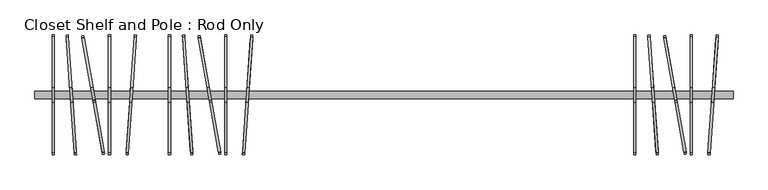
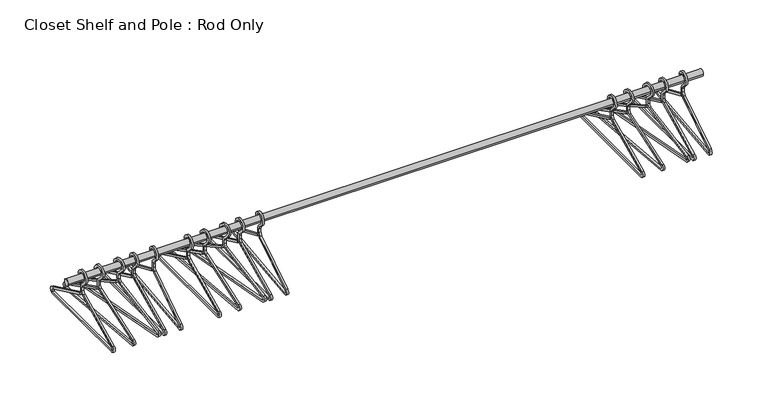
"""IFC4 building model written with IfcOpenShell, lengths in millimetres: furniture geometry, Closet Shelf and Pole : Rod Only."""

from ifc_helpers import new_model, si_unit, point, frame, frame_2d, origin, place, context, project, spatial, polyline, circle_curve, trimmed, segment, composite_curve, outline, extrude, source, transform, mapped, element, save


def closet_shelf_and_pole_rod_only_98f2f419(model_context):
    return source(origin(), model_context, "Body", "SweptSolid", [
        extrude(outline(composite_curve([segment(polyline([(0.0, -7.62), (0.0, 0.0), (209.55, 0.0)]), True, "CONTINUOUS"), segment(trimmed(circle_curve(frame_2d((209.55, -12.7)), 12.7), [point((209.55, 0.0))], [point((215.0168758, -24.1631265))], False, "CARTESIAN"), True, "CONTINUOUS"), segment(polyline([(215.0168758, -24.1631265), (-140.3400452, -193.6362767)]), True, "CONTINUOUS"), segment(trimmed(circle_curve(frame_2d((-145.806921, -182.1731502)), 12.7), [point((-140.3400452, -193.6362767))], [point((-155.6758169, -174.179722))], False, "CARTESIAN"), True, "CONTINUOUS"), segment(polyline([(-155.6758169, -174.179722), (-19.6406824, -6.2271797)]), True, "CONTINUOUS"), segment(trimmed(circle_curve(frame_2d((-29.5095783, 1.7662485)), 12.7), [point((-19.6406824, -6.2271797))], [point((-18.0464519, 7.2331242))], True, "CARTESIAN"), True, "CONTINUOUS"), segment(polyline([(-18.0464519, 7.2331242), (-24.2041701, 20.1448321)]), True, "CONTINUOUS"), segment(trimmed(circle_curve(frame_2d((-35.6672966, 14.6779563)), 12.7), [point((-24.2041701, 20.1448321))], [point((-31.4273071, 26.6492757))], True, "CARTESIAN"), True, "CONTINUOUS"), segment(polyline([(-31.4273071, 26.6492757), (-50.4112631, 33.3729936)]), True, "CONTINUOUS"), segment(trimmed(circle_curve(frame_2d((-41.9312841, 57.3156324)), 25.4), [point((-50.4112631, 33.3729936))], [point((-19.005031, 68.2493841))], False, "CARTESIAN"), True, "CONTINUOUS"), segment(polyline([(-19.005031, 68.2493841), (-25.882907, 64.9692586)]), True, "CONTINUOUS"), segment(trimmed(circle_curve(frame_2d((-41.9312841, 57.3156324)), 17.78), [point((-25.882907, 64.9692586))], [point((-47.8672693, 40.5557852))], True, "CARTESIAN"), True, "CONTINUOUS"), segment(polyline([(-47.8672693, 40.5557852), (-28.8833134, 33.8320674)]), True, "CONTINUOUS"), segment(trimmed(circle_curve(frame_2d((-35.6672966, 14.6779563)), 20.32), [point((-28.8833134, 33.8320674))], [point((-17.3262942, 23.4249576))], False, "CARTESIAN"), True, "CONTINUOUS"), segment(polyline([(-17.3262942, 23.4249576), (-11.1685759, 10.5132497)]), True, "CONTINUOUS"), segment(trimmed(circle_curve(frame_2d((-29.5095783, 1.7662485)), 20.32), [point((-11.1685759, 10.5132497))], [point((-13.7193448, -11.0232366))], False, "CARTESIAN"), True, "CONTINUOUS"), segment(polyline([(-13.7193448, -11.0232366), (-149.7544794, -178.9757789)]), True, "CONTINUOUS"), segment(trimmed(circle_curve(frame_2d((-145.806921, -182.1731502)), 5.08), [point((-149.7544794, -178.9757789))], [point((-143.6201707, -186.7584008))], True, "CARTESIAN"), True, "CONTINUOUS"), segment(polyline([(-143.6201707, -186.7584008), (211.7367503, -17.2852506)]), True, "CONTINUOUS"), segment(trimmed(circle_curve(frame_2d((209.55, -12.7)), 5.08), [point((211.7367503, -17.2852506))], [point((209.55, -7.62))], True, "CARTESIAN"), True, "CONTINUOUS"), segment(polyline([(209.55, -7.62), (0.0, -7.62)]), True, "CONTINUOUS")], self_intersect=False)), frame((603.5600176, -241.686473, 1314.5165774), z_axis=(0.9848077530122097, 0.1736481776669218, 0.0), x_axis=(-0.15673630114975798, 0.8888957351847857, -0.4304626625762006)), (0.0, 0.0, 1.0), 7.62),
        extrude(outline(composite_curve([segment(polyline([(0.0, -7.62), (0.0, 0.0), (209.55, 0.0)]), True, "CONTINUOUS"), segment(trimmed(circle_curve(frame_2d((209.55, 5.08)), 5.08), [point((209.55, 0.0))], [point((211.7367503, 9.6652506))], True, "CARTESIAN"), True, "CONTINUOUS"), segment(polyline([(211.7367503, 9.6652506), (-143.6201708, 179.1384008)]), True, "CONTINUOUS"), segment(trimmed(circle_curve(frame_2d((-145.8069211, 174.5531502)), 5.08), [point((-143.6201708, 179.1384008))], [point((-149.7544794, 171.355779))], True, "CARTESIAN"), True, "CONTINUOUS"), segment(polyline([(-149.7544794, 171.355779), (-13.7193449, 3.4032366)]), True, "CONTINUOUS"), segment(trimmed(circle_curve(frame_2d((-29.5095783, -9.3862485)), 20.32), [point((-13.7193449, 3.4032366))], [point((-11.1685759, -18.1332498))], False, "CARTESIAN"), True, "CONTINUOUS"), segment(polyline([(-11.1685759, -18.1332498), (-17.3262942, -31.0449576)]), True, "CONTINUOUS"), segment(trimmed(circle_curve(frame_2d((-35.6672966, -22.2979563)), 20.32), [point((-17.3262942, -31.0449576))], [point((-28.8833133, -41.4520675))], False, "CARTESIAN"), True, "CONTINUOUS"), segment(polyline([(-28.8833133, -41.4520675), (-47.8672693, -48.1757852)]), True, "CONTINUOUS"), segment(trimmed(circle_curve(frame_2d((-41.931284, -64.9356325)), 17.78), [point((-47.8672693, -48.1757852))], [point((-25.882907, -72.5892586))], True, "CARTESIAN"), True, "CONTINUOUS"), segment(polyline([(-25.882907, -72.5892586), (-19.0050311, -75.8693841)]), True, "CONTINUOUS"), segment(trimmed(circle_curve(frame_2d((-41.931284, -64.9356325)), 25.4), [point((-19.0050311, -75.8693841))], [point((-50.4112631, -40.9929936))], False, "CARTESIAN"), True, "CONTINUOUS"), segment(polyline([(-50.4112631, -40.9929936), (-31.427307, -34.2692758)]), True, "CONTINUOUS"), segment(trimmed(circle_curve(frame_2d((-35.6672966, -22.2979563)), 12.7), [point((-31.427307, -34.2692758))], [point((-24.2041701, -27.7648321))], True, "CARTESIAN"), True, "CONTINUOUS"), segment(polyline([(-24.2041701, -27.7648321), (-18.0464518, -14.8531243)]), True, "CONTINUOUS"), segment(trimmed(circle_curve(frame_2d((-29.5095783, -9.3862485)), 12.7), [point((-18.0464518, -14.8531243))], [point((-19.6406824, -1.3928203))], True, "CARTESIAN"), True, "CONTINUOUS"), segment(polyline([(-19.6406824, -1.3928203), (-155.6758169, 166.559722)]), True, "CONTINUOUS"), segment(trimmed(circle_curve(frame_2d((-145.8069211, 174.5531502)), 12.7), [point((-155.6758169, 166.559722))], [point((-140.3400453, 186.0162767))], False, "CARTESIAN"), True, "CONTINUOUS"), segment(polyline([(-140.3400453, 186.0162767), (215.0168758, 16.5431265)]), True, "CONTINUOUS"), segment(trimmed(circle_curve(frame_2d((209.55, 5.08)), 12.7), [point((215.0168758, 16.5431265))], [point((209.55, -7.6200001))], False, "CARTESIAN"), True, "CONTINUOUS"), segment(polyline([(209.55, -7.6200001), (0.0, -7.62)]), True, "CONTINUOUS")], self_intersect=False)), frame((747.4409707, -244.394713, 1307.6387015), z_axis=(-0.9975640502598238, 0.0697564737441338, 0.0), x_axis=(0.06296277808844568, 0.900409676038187, -0.4304626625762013)), (0.0, 0.0, 1.0), 7.62),
        extrude(outline(composite_curve([segment(polyline([(0.0, -7.62), (0.0, 0.0), (209.55, 0.0)]), True, "CONTINUOUS"), segment(trimmed(circle_curve(frame_2d((209.55, -12.7)), 12.7), [point((209.55, 0.0))], [point((215.0168758, -24.1631265))], False, "CARTESIAN"), True, "CONTINUOUS"), segment(polyline([(215.0168758, -24.1631265), (-140.3400453, -193.6362767)]), True, "CONTINUOUS"), segment(trimmed(circle_curve(frame_2d((-145.8069211, -182.1731502)), 12.7), [point((-140.3400453, -193.6362767))], [point((-155.6758169, -174.179722))], False, "CARTESIAN"), True, "CONTINUOUS"), segment(polyline([(-155.6758169, -174.179722), (-19.6406824, -6.2271797)]), True, "CONTINUOUS"), segment(trimmed(circle_curve(frame_2d((-29.5095783, 1.7662484)), 12.7), [point((-19.6406824, -6.2271797))], [point((-18.0464519, 7.2331242))], True, "CARTESIAN"), True, "CONTINUOUS"), segment(polyline([(-18.0464519, 7.2331242), (-24.2041701, 20.1448321)]), True, "CONTINUOUS"), segment(trimmed(circle_curve(frame_2d((-35.6672966, 14.6779563)), 12.7), [point((-24.2041701, 20.1448321))], [point((-31.427307, 26.6492757))], True, "CARTESIAN"), True, "CONTINUOUS"), segment(polyline([(-31.427307, 26.6492757), (-50.4112631, 33.3729936)]), True, "CONTINUOUS"), segment(trimmed(circle_curve(frame_2d((-41.9312841, 57.3156324)), 25.4), [point((-50.4112631, 33.3729936))], [point((-19.0050311, 68.2493841))], False, "CARTESIAN"), True, "CONTINUOUS"), segment(polyline([(-19.0050311, 68.2493841), (-25.882907, 64.9692586)]), True, "CONTINUOUS"), segment(trimmed(circle_curve(frame_2d((-41.9312841, 57.3156324)), 17.78), [point((-25.882907, 64.9692586))], [point((-47.8672693, 40.5557852))], True, "CARTESIAN"), True, "CONTINUOUS"), segment(polyline([(-47.8672693, 40.5557852), (-28.8833133, 33.8320674)]), True, "CONTINUOUS"), segment(trimmed(circle_curve(frame_2d((-35.6672966, 14.6779563)), 20.32), [point((-28.8833133, 33.8320674))], [point((-17.3262942, 23.4249576))], False, "CARTESIAN"), True, "CONTINUOUS"), segment(polyline([(-17.3262942, 23.4249576), (-11.1685759, 10.5132497)]), True, "CONTINUOUS"), segment(trimmed(circle_curve(frame_2d((-29.5095783, 1.7662484)), 20.32), [point((-11.1685759, 10.5132497))], [point((-13.7193449, -11.0232367))], False, "CARTESIAN"), True, "CONTINUOUS"), segment(polyline([(-13.7193449, -11.0232367), (-149.7544795, -178.975779)]), True, "CONTINUOUS"), segment(trimmed(circle_curve(frame_2d((-145.8069211, -182.1731502)), 5.08), [point((-149.7544795, -178.975779))], [point((-143.6201708, -186.7584008))], True, "CARTESIAN"), True, "CONTINUOUS"), segment(polyline([(-143.6201708, -186.7584008), (211.7367503, -17.2852506)]), True, "CONTINUOUS"), segment(trimmed(circle_curve(frame_2d((209.55, -12.7)), 5.08), [point((211.7367503, -17.2852506))], [point((209.5499999, -7.62))], True, "CARTESIAN"), True, "CONTINUOUS"), segment(polyline([(209.5499999, -7.62), (0.0, -7.62)]), True, "CONTINUOUS")], self_intersect=False)), frame((528.6802193, -241.1225777, 1314.5165774), z_axis=(0.997564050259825, 0.06975647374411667, 0.0), x_axis=(-0.06296277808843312, 0.900409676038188, -0.4304626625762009)), (0.0, 0.0, 1.0), 7.62),
        extrude(outline(composite_curve([segment(polyline([(-244.1048367, 1307.6387015), (-240.8247112, 1314.5165774), (-51.6831242, 1224.3131265)]), True, "CONTINUOUS"), segment(trimmed(circle_curve(frame_2d((-57.15, 1212.85)), 12.7), [point((-51.6831242, 1224.3131265))], [point((-57.15, 1200.15))], False, "CARTESIAN"), True, "CONTINUOUS"), segment(polyline([(-57.15, 1200.15), (-450.85, 1200.15)]), True, "CONTINUOUS"), segment(trimmed(circle_curve(frame_2d((-450.85, 1212.85)), 12.7), [point((-450.85, 1200.15))], [point((-456.3168758, 1224.3131265))], False, "CARTESIAN"), True, "CONTINUOUS"), segment(polyline([(-456.3168758, 1224.3131265), (-261.2331242, 1317.3504532)]), True, "CONTINUOUS"), segment(trimmed(circle_curve(frame_2d((-266.7, 1328.8135797)), 12.7), [point((-261.2331242, 1317.3504532))], [point((-254.0, 1328.8135797))], True, "CARTESIAN"), True, "CONTINUOUS"), segment(polyline([(-254.0, 1328.8135797), (-254.0, 1343.1184633)]), True, "CONTINUOUS"), segment(trimmed(circle_curve(frame_2d((-266.7, 1343.1184633)), 12.7), [point((-254.0, 1343.1184633))], [point((-257.7197439, 1352.0987194))], True, "CARTESIAN"), True, "CONTINUOUS"), segment(polyline([(-257.7197439, 1352.0987194), (-271.9605122, 1366.3394878)]), True, "CONTINUOUS"), segment(trimmed(circle_curve(frame_2d((-254.0, 1384.3)), 25.4), [point((-271.9605122, 1366.3394878))], [point((-228.6, 1384.3))], False, "CARTESIAN"), True, "CONTINUOUS"), segment(polyline([(-228.6, 1384.3), (-236.22, 1384.3)]), True, "CONTINUOUS"), segment(trimmed(circle_curve(frame_2d((-254.0, 1384.3)), 17.78), [point((-236.22, 1384.3))], [point((-266.5723586, 1371.7276414))], True, "CARTESIAN"), True, "CONTINUOUS"), segment(polyline([(-266.5723586, 1371.7276414), (-252.3315902, 1357.4868731)]), True, "CONTINUOUS"), segment(trimmed(circle_curve(frame_2d((-266.7, 1343.1184633)), 20.32), [point((-252.3315902, 1357.4868731))], [point((-246.38, 1343.1184633))], False, "CARTESIAN"), True, "CONTINUOUS"), segment(polyline([(-246.38, 1343.1184633), (-246.38, 1328.8135797)]), True, "CONTINUOUS"), segment(trimmed(circle_curve(frame_2d((-266.7, 1328.8135797)), 20.32), [point((-246.38, 1328.8135797))], [point((-257.9529987, 1310.4725773))], False, "CARTESIAN"), True, "CONTINUOUS"), segment(polyline([(-257.9529987, 1310.4725773), (-453.0367503, 1217.4352506)]), True, "CONTINUOUS"), segment(trimmed(circle_curve(frame_2d((-450.85, 1212.85)), 5.08), [point((-453.0367503, 1217.4352506))], [point((-450.85, 1207.77))], True, "CARTESIAN"), True, "CONTINUOUS"), segment(polyline([(-450.85, 1207.77), (-57.15, 1207.77)]), True, "CONTINUOUS"), segment(trimmed(circle_curve(frame_2d((-57.15, 1212.85)), 5.08), [point((-57.15, 1207.77))], [point((-54.9632497, 1217.4352506))], True, "CARTESIAN"), True, "CONTINUOUS"), segment(polyline([(-54.9632497, 1217.4352506), (-244.1048367, 1307.6387015)]), True, "CONTINUOUS")], self_intersect=False)), frame((662.94, 0.0, 0.0), z_axis=(1.0, 0.0, 0.0), x_axis=(0.0, 1.0, 0.0)), (0.0, 0.0, 1.0), 7.62),
        extrude(outline(composite_curve([segment(polyline([(-244.1048367, 1307.6387015), (-240.8247112, 1314.5165774), (-51.6831242, 1224.3131265)]), True, "CONTINUOUS"), segment(trimmed(circle_curve(frame_2d((-57.15, 1212.85)), 12.7), [point((-51.6831242, 1224.3131265))], [point((-57.15, 1200.15))], False, "CARTESIAN"), True, "CONTINUOUS"), segment(polyline([(-57.15, 1200.15), (-450.85, 1200.15)]), True, "CONTINUOUS"), segment(trimmed(circle_curve(frame_2d((-450.85, 1212.85)), 12.7), [point((-450.85, 1200.15))], [point((-456.3168758, 1224.3131265))], False, "CARTESIAN"), True, "CONTINUOUS"), segment(polyline([(-456.3168758, 1224.3131265), (-261.2331242, 1317.3504532)]), True, "CONTINUOUS"), segment(trimmed(circle_curve(frame_2d((-266.7, 1328.8135797)), 12.7), [point((-261.2331242, 1317.3504532))], [point((-254.0, 1328.8135797))], True, "CARTESIAN"), True, "CONTINUOUS"), segment(polyline([(-254.0, 1328.8135797), (-254.0, 1343.1184633)]), True, "CONTINUOUS"), segment(trimmed(circle_curve(frame_2d((-266.7, 1343.1184633)), 12.7), [point((-254.0, 1343.1184633))], [point((-257.7197439, 1352.0987194))], True, "CARTESIAN"), True, "CONTINUOUS"), segment(polyline([(-257.7197439, 1352.0987194), (-271.9605122, 1366.3394878)]), True, "CONTINUOUS"), segment(trimmed(circle_curve(frame_2d((-254.0, 1384.3)), 25.4), [point((-271.9605122, 1366.3394878))], [point((-228.6, 1384.3))], False, "CARTESIAN"), True, "CONTINUOUS"), segment(polyline([(-228.6, 1384.3), (-236.22, 1384.3)]), True, "CONTINUOUS"), segment(trimmed(circle_curve(frame_2d((-254.0, 1384.3)), 17.78), [point((-236.22, 1384.3))], [point((-266.5723586, 1371.7276414))], True, "CARTESIAN"), True, "CONTINUOUS"), segment(polyline([(-266.5723586, 1371.7276414), (-252.3315902, 1357.4868731)]), True, "CONTINUOUS"), segment(trimmed(circle_curve(frame_2d((-266.7, 1343.1184633)), 20.32), [point((-252.3315902, 1357.4868731))], [point((-246.38, 1343.1184633))], False, "CARTESIAN"), True, "CONTINUOUS"), segment(polyline([(-246.38, 1343.1184633), (-246.38, 1328.8135797)]), True, "CONTINUOUS"), segment(trimmed(circle_curve(frame_2d((-266.7, 1328.8135797)), 20.32), [point((-246.38, 1328.8135797))], [point((-257.9529987, 1310.4725773))], False, "CARTESIAN"), True, "CONTINUOUS"), segment(polyline([(-257.9529987, 1310.4725773), (-453.0367503, 1217.4352506)]), True, "CONTINUOUS"), segment(trimmed(circle_curve(frame_2d((-450.85, 1212.85)), 5.08), [point((-453.0367503, 1217.4352506))], [point((-450.85, 1207.77))], True, "CARTESIAN"), True, "CONTINUOUS"), segment(polyline([(-450.85, 1207.77), (-57.15, 1207.77)]), True, "CONTINUOUS"), segment(trimmed(circle_curve(frame_2d((-57.15, 1212.85)), 5.08), [point((-57.15, 1207.77))], [point((-54.9632497, 1217.4352506))], True, "CARTESIAN"), True, "CONTINUOUS"), segment(polyline([(-54.9632497, 1217.4352506), (-244.1048367, 1307.6387015)]), True, "CONTINUOUS")], self_intersect=False)), frame((466.09, 0.0, 0.0), z_axis=(1.0, 0.0, 0.0), x_axis=(0.0, 1.0, 0.0)), (0.0, 0.0, 1.0), 7.62),
        extrude(outline(composite_curve([segment(polyline([(0.0, -7.62), (0.0, 0.0), (209.55, 0.0)]), True, "CONTINUOUS"), segment(trimmed(circle_curve(frame_2d((209.55, -12.7)), 12.7), [point((209.55, 0.0))], [point((215.0168758, -24.1631265))], False, "CARTESIAN"), True, "CONTINUOUS"), segment(polyline([(215.0168758, -24.1631265), (-140.3400452, -193.6362767)]), True, "CONTINUOUS"), segment(trimmed(circle_curve(frame_2d((-145.806921, -182.1731502)), 12.7), [point((-140.3400452, -193.6362767))], [point((-155.6758169, -174.179722))], False, "CARTESIAN"), True, "CONTINUOUS"), segment(polyline([(-155.6758169, -174.179722), (-19.6406824, -6.2271797)]), True, "CONTINUOUS"), segment(trimmed(circle_curve(frame_2d((-29.5095783, 1.7662485)), 12.7), [point((-19.6406824, -6.2271797))], [point((-18.0464519, 7.2331242))], True, "CARTESIAN"), True, "CONTINUOUS"), segment(polyline([(-18.0464519, 7.2331242), (-24.2041701, 20.1448321)]), True, "CONTINUOUS"), segment(trimmed(circle_curve(frame_2d((-35.6672966, 14.6779563)), 12.7), [point((-24.2041701, 20.1448321))], [point((-31.4273071, 26.6492757))], True, "CARTESIAN"), True, "CONTINUOUS"), segment(polyline([(-31.4273071, 26.6492757), (-50.4112631, 33.3729936)]), True, "CONTINUOUS"), segment(trimmed(circle_curve(frame_2d((-41.9312841, 57.3156324)), 25.4), [point((-50.4112631, 33.3729936))], [point((-19.005031, 68.2493841))], False, "CARTESIAN"), True, "CONTINUOUS"), segment(polyline([(-19.005031, 68.2493841), (-25.882907, 64.9692586)]), True, "CONTINUOUS"), segment(trimmed(circle_curve(frame_2d((-41.9312841, 57.3156324)), 17.78), [point((-25.882907, 64.9692586))], [point((-47.8672693, 40.5557852))], True, "CARTESIAN"), True, "CONTINUOUS"), segment(polyline([(-47.8672693, 40.5557852), (-28.8833134, 33.8320674)]), True, "CONTINUOUS"), segment(trimmed(circle_curve(frame_2d((-35.6672966, 14.6779563)), 20.32), [point((-28.8833134, 33.8320674))], [point((-17.3262942, 23.4249576))], False, "CARTESIAN"), True, "CONTINUOUS"), segment(polyline([(-17.3262942, 23.4249576), (-11.1685759, 10.5132497)]), True, "CONTINUOUS"), segment(trimmed(circle_curve(frame_2d((-29.5095783, 1.7662485)), 20.32), [point((-11.1685759, 10.5132497))], [point((-13.7193448, -11.0232366))], False, "CARTESIAN"), True, "CONTINUOUS"), segment(polyline([(-13.7193448, -11.0232366), (-149.7544794, -178.9757789)]), True, "CONTINUOUS"), segment(trimmed(circle_curve(frame_2d((-145.806921, -182.1731502)), 5.08), [point((-149.7544794, -178.9757789))], [point((-143.6201707, -186.7584008))], True, "CARTESIAN"), True, "CONTINUOUS"), segment(polyline([(-143.6201707, -186.7584008), (211.7367503, -17.2852506)]), True, "CONTINUOUS"), segment(trimmed(circle_curve(frame_2d((209.55, -12.7)), 5.08), [point((211.7367503, -17.2852506))], [point((209.55, -7.62))], True, "CARTESIAN"), True, "CONTINUOUS"), segment(polyline([(209.55, -7.62), (0.0, -7.62)]), True, "CONTINUOUS")], self_intersect=False)), frame((2229.1600176, -241.686473, 1314.5165774), z_axis=(0.9848077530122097, 0.1736481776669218, 0.0), x_axis=(-0.15673630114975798, 0.8888957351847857, -0.4304626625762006)), (0.0, 0.0, 1.0), 7.62),
        extrude(outline(composite_curve([segment(polyline([(0.0, -7.62), (0.0, 0.0), (209.55, 0.0)]), True, "CONTINUOUS"), segment(trimmed(circle_curve(frame_2d((209.55, 5.08)), 5.08), [point((209.55, 0.0))], [point((211.7367503, 9.6652506))], True, "CARTESIAN"), True, "CONTINUOUS"), segment(polyline([(211.7367503, 9.6652506), (-143.6201708, 179.1384008)]), True, "CONTINUOUS"), segment(trimmed(circle_curve(frame_2d((-145.8069211, 174.5531502)), 5.08), [point((-143.6201708, 179.1384008))], [point((-149.7544794, 171.355779))], True, "CARTESIAN"), True, "CONTINUOUS"), segment(polyline([(-149.7544794, 171.355779), (-13.7193449, 3.4032366)]), True, "CONTINUOUS"), segment(trimmed(circle_curve(frame_2d((-29.5095783, -9.3862485)), 20.32), [point((-13.7193449, 3.4032366))], [point((-11.1685759, -18.1332498))], False, "CARTESIAN"), True, "CONTINUOUS"), segment(polyline([(-11.1685759, -18.1332498), (-17.3262942, -31.0449576)]), True, "CONTINUOUS"), segment(trimmed(circle_curve(frame_2d((-35.6672966, -22.2979563)), 20.32), [point((-17.3262942, -31.0449576))], [point((-28.8833133, -41.4520675))], False, "CARTESIAN"), True, "CONTINUOUS"), segment(polyline([(-28.8833133, -41.4520675), (-47.8672693, -48.1757852)]), True, "CONTINUOUS"), segment(trimmed(circle_curve(frame_2d((-41.931284, -64.9356325)), 17.78), [point((-47.8672693, -48.1757852))], [point((-25.882907, -72.5892586))], True, "CARTESIAN"), True, "CONTINUOUS"), segment(polyline([(-25.882907, -72.5892586), (-19.0050311, -75.8693841)]), True, "CONTINUOUS"), segment(trimmed(circle_curve(frame_2d((-41.931284, -64.9356325)), 25.4), [point((-19.0050311, -75.8693841))], [point((-50.4112631, -40.9929936))], False, "CARTESIAN"), True, "CONTINUOUS"), segment(polyline([(-50.4112631, -40.9929936), (-31.427307, -34.2692758)]), True, "CONTINUOUS"), segment(trimmed(circle_curve(frame_2d((-35.6672966, -22.2979563)), 12.7), [point((-31.427307, -34.2692758))], [point((-24.2041701, -27.7648321))], True, "CARTESIAN"), True, "CONTINUOUS"), segment(polyline([(-24.2041701, -27.7648321), (-18.0464518, -14.8531243)]), True, "CONTINUOUS"), segment(trimmed(circle_curve(frame_2d((-29.5095783, -9.3862485)), 12.7), [point((-18.0464518, -14.8531243))], [point((-19.6406824, -1.3928203))], True, "CARTESIAN"), True, "CONTINUOUS"), segment(polyline([(-19.6406824, -1.3928203), (-155.6758169, 166.559722)]), True, "CONTINUOUS"), segment(trimmed(circle_curve(frame_2d((-145.8069211, 174.5531502)), 12.7), [point((-155.6758169, 166.559722))], [point((-140.3400453, 186.0162767))], False, "CARTESIAN"), True, "CONTINUOUS"), segment(polyline([(-140.3400453, 186.0162767), (215.0168758, 16.5431265)]), True, "CONTINUOUS"), segment(trimmed(circle_curve(frame_2d((209.55, 5.08)), 12.7), [point((215.0168758, 16.5431265))], [point((209.55, -7.6200001))], False, "CARTESIAN"), True, "CONTINUOUS"), segment(polyline([(209.55, -7.6200001), (0.0, -7.62)]), True, "CONTINUOUS")], self_intersect=False)), frame((2373.0409707, -244.394713, 1307.6387015), z_axis=(-0.9975640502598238, 0.0697564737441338, 0.0), x_axis=(0.06296277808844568, 0.900409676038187, -0.4304626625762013)), (0.0, 0.0, 1.0), 7.62),
        extrude(outline(composite_curve([segment(polyline([(0.0, -7.62), (0.0, 0.0), (209.55, 0.0)]), True, "CONTINUOUS"), segment(trimmed(circle_curve(frame_2d((209.55, -12.7)), 12.7), [point((209.55, 0.0))], [point((215.0168758, -24.1631265))], False, "CARTESIAN"), True, "CONTINUOUS"), segment(polyline([(215.0168758, -24.1631265), (-140.3400453, -193.6362767)]), True, "CONTINUOUS"), segment(trimmed(circle_curve(frame_2d((-145.8069211, -182.1731502)), 12.7), [point((-140.3400453, -193.6362767))], [point((-155.6758169, -174.179722))], False, "CARTESIAN"), True, "CONTINUOUS"), segment(polyline([(-155.6758169, -174.179722), (-19.6406824, -6.2271797)]), True, "CONTINUOUS"), segment(trimmed(circle_curve(frame_2d((-29.5095783, 1.7662484)), 12.7), [point((-19.6406824, -6.2271797))], [point((-18.0464519, 7.2331242))], True, "CARTESIAN"), True, "CONTINUOUS"), segment(polyline([(-18.0464519, 7.2331242), (-24.2041701, 20.1448321)]), True, "CONTINUOUS"), segment(trimmed(circle_curve(frame_2d((-35.6672966, 14.6779563)), 12.7), [point((-24.2041701, 20.1448321))], [point((-31.427307, 26.6492757))], True, "CARTESIAN"), True, "CONTINUOUS"), segment(polyline([(-31.427307, 26.6492757), (-50.4112631, 33.3729936)]), True, "CONTINUOUS"), segment(trimmed(circle_curve(frame_2d((-41.9312841, 57.3156324)), 25.4), [point((-50.4112631, 33.3729936))], [point((-19.0050311, 68.2493841))], False, "CARTESIAN"), True, "CONTINUOUS"), segment(polyline([(-19.0050311, 68.2493841), (-25.882907, 64.9692586)]), True, "CONTINUOUS"), segment(trimmed(circle_curve(frame_2d((-41.9312841, 57.3156324)), 17.78), [point((-25.882907, 64.9692586))], [point((-47.8672693, 40.5557852))], True, "CARTESIAN"), True, "CONTINUOUS"), segment(polyline([(-47.8672693, 40.5557852), (-28.8833133, 33.8320674)]), True, "CONTINUOUS"), segment(trimmed(circle_curve(frame_2d((-35.6672966, 14.6779563)), 20.32), [point((-28.8833133, 33.8320674))], [point((-17.3262942, 23.4249576))], False, "CARTESIAN"), True, "CONTINUOUS"), segment(polyline([(-17.3262942, 23.4249576), (-11.1685759, 10.5132497)]), True, "CONTINUOUS"), segment(trimmed(circle_curve(frame_2d((-29.5095783, 1.7662484)), 20.32), [point((-11.1685759, 10.5132497))], [point((-13.7193449, -11.0232367))], False, "CARTESIAN"), True, "CONTINUOUS"), segment(polyline([(-13.7193449, -11.0232367), (-149.7544795, -178.975779)]), True, "CONTINUOUS"), segment(trimmed(circle_curve(frame_2d((-145.8069211, -182.1731502)), 5.08), [point((-149.7544795, -178.975779))], [point((-143.6201708, -186.7584008))], True, "CARTESIAN"), True, "CONTINUOUS"), segment(polyline([(-143.6201708, -186.7584008), (211.7367503, -17.2852506)]), True, "CONTINUOUS"), segment(trimmed(circle_curve(frame_2d((209.55, -12.7)), 5.08), [point((211.7367503, -17.2852506))], [point((209.5499999, -7.62))], True, "CARTESIAN"), True, "CONTINUOUS"), segment(polyline([(209.5499999, -7.62), (0.0, -7.62)]), True, "CONTINUOUS")], self_intersect=False)), frame((2154.2802193, -241.1225777, 1314.5165774), z_axis=(0.997564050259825, 0.06975647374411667, 0.0), x_axis=(-0.06296277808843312, 0.900409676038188, -0.4304626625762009)), (0.0, 0.0, 1.0), 7.62),
        extrude(outline(composite_curve([segment(polyline([(-244.1048367, 1307.6387015), (-240.8247112, 1314.5165774), (-51.6831242, 1224.3131265)]), True, "CONTINUOUS"), segment(trimmed(circle_curve(frame_2d((-57.15, 1212.85)), 12.7), [point((-51.6831242, 1224.3131265))], [point((-57.15, 1200.15))], False, "CARTESIAN"), True, "CONTINUOUS"), segment(polyline([(-57.15, 1200.15), (-450.85, 1200.15)]), True, "CONTINUOUS"), segment(trimmed(circle_curve(frame_2d((-450.85, 1212.85)), 12.7), [point((-450.85, 1200.15))], [point((-456.3168758, 1224.3131265))], False, "CARTESIAN"), True, "CONTINUOUS"), segment(polyline([(-456.3168758, 1224.3131265), (-261.2331242, 1317.3504532)]), True, "CONTINUOUS"), segment(trimmed(circle_curve(frame_2d((-266.7, 1328.8135797)), 12.7), [point((-261.2331242, 1317.3504532))], [point((-254.0, 1328.8135797))], True, "CARTESIAN"), True, "CONTINUOUS"), segment(polyline([(-254.0, 1328.8135797), (-254.0, 1343.1184633)]), True, "CONTINUOUS"), segment(trimmed(circle_curve(frame_2d((-266.7, 1343.1184633)), 12.7), [point((-254.0, 1343.1184633))], [point((-257.7197439, 1352.0987194))], True, "CARTESIAN"), True, "CONTINUOUS"), segment(polyline([(-257.7197439, 1352.0987194), (-271.9605122, 1366.3394878)]), True, "CONTINUOUS"), segment(trimmed(circle_curve(frame_2d((-254.0, 1384.3)), 25.4), [point((-271.9605122, 1366.3394878))], [point((-228.6, 1384.3))], False, "CARTESIAN"), True, "CONTINUOUS"), segment(polyline([(-228.6, 1384.3), (-236.22, 1384.3)]), True, "CONTINUOUS"), segment(trimmed(circle_curve(frame_2d((-254.0, 1384.3)), 17.78), [point((-236.22, 1384.3))], [point((-266.5723586, 1371.7276414))], True, "CARTESIAN"), True, "CONTINUOUS"), segment(polyline([(-266.5723586, 1371.7276414), (-252.3315902, 1357.4868731)]), True, "CONTINUOUS"), segment(trimmed(circle_curve(frame_2d((-266.7, 1343.1184633)), 20.32), [point((-252.3315902, 1357.4868731))], [point((-246.38, 1343.1184633))], False, "CARTESIAN"), True, "CONTINUOUS"), segment(polyline([(-246.38, 1343.1184633), (-246.38, 1328.8135797)]), True, "CONTINUOUS"), segment(trimmed(circle_curve(frame_2d((-266.7, 1328.8135797)), 20.32), [point((-246.38, 1328.8135797))], [point((-257.9529987, 1310.4725773))], False, "CARTESIAN"), True, "CONTINUOUS"), segment(polyline([(-257.9529987, 1310.4725773), (-453.0367503, 1217.4352506)]), True, "CONTINUOUS"), segment(trimmed(circle_curve(frame_2d((-450.85, 1212.85)), 5.08), [point((-453.0367503, 1217.4352506))], [point((-450.85, 1207.77))], True, "CARTESIAN"), True, "CONTINUOUS"), segment(polyline([(-450.85, 1207.77), (-57.15, 1207.77)]), True, "CONTINUOUS"), segment(trimmed(circle_curve(frame_2d((-57.15, 1212.85)), 5.08), [point((-57.15, 1207.77))], [point((-54.9632497, 1217.4352506))], True, "CARTESIAN"), True, "CONTINUOUS"), segment(polyline([(-54.9632497, 1217.4352506), (-244.1048367, 1307.6387015)]), True, "CONTINUOUS")], self_intersect=False)), frame((2288.54, 0.0, 0.0), z_axis=(1.0, 0.0, 0.0), x_axis=(0.0, 1.0, 0.0)), (0.0, 0.0, 1.0), 7.62),
        extrude(outline(composite_curve([segment(polyline([(-244.1048367, 1307.6387015), (-240.8247112, 1314.5165774), (-51.6831242, 1224.3131265)]), True, "CONTINUOUS"), segment(trimmed(circle_curve(frame_2d((-57.15, 1212.85)), 12.7), [point((-51.6831242, 1224.3131265))], [point((-57.15, 1200.15))], False, "CARTESIAN"), True, "CONTINUOUS"), segment(polyline([(-57.15, 1200.15), (-450.85, 1200.15)]), True, "CONTINUOUS"), segment(trimmed(circle_curve(frame_2d((-450.85, 1212.85)), 12.7), [point((-450.85, 1200.15))], [point((-456.3168758, 1224.3131265))], False, "CARTESIAN"), True, "CONTINUOUS"), segment(polyline([(-456.3168758, 1224.3131265), (-261.2331242, 1317.3504532)]), True, "CONTINUOUS"), segment(trimmed(circle_curve(frame_2d((-266.7, 1328.8135797)), 12.7), [point((-261.2331242, 1317.3504532))], [point((-254.0, 1328.8135797))], True, "CARTESIAN"), True, "CONTINUOUS"), segment(polyline([(-254.0, 1328.8135797), (-254.0, 1343.1184633)]), True, "CONTINUOUS"), segment(trimmed(circle_curve(frame_2d((-266.7, 1343.1184633)), 12.7), [point((-254.0, 1343.1184633))], [point((-257.7197439, 1352.0987194))], True, "CARTESIAN"), True, "CONTINUOUS"), segment(polyline([(-257.7197439, 1352.0987194), (-271.9605122, 1366.3394878)]), True, "CONTINUOUS"), segment(trimmed(circle_curve(frame_2d((-254.0, 1384.3)), 25.4), [point((-271.9605122, 1366.3394878))], [point((-228.6, 1384.3))], False, "CARTESIAN"), True, "CONTINUOUS"), segment(polyline([(-228.6, 1384.3), (-236.22, 1384.3)]), True, "CONTINUOUS"), segment(trimmed(circle_curve(frame_2d((-254.0, 1384.3)), 17.78), [point((-236.22, 1384.3))], [point((-266.5723586, 1371.7276414))], True, "CARTESIAN"), True, "CONTINUOUS"), segment(polyline([(-266.5723586, 1371.7276414), (-252.3315902, 1357.4868731)]), True, "CONTINUOUS"), segment(trimmed(circle_curve(frame_2d((-266.7, 1343.1184633)), 20.32), [point((-252.3315902, 1357.4868731))], [point((-246.38, 1343.1184633))], False, "CARTESIAN"), True, "CONTINUOUS"), segment(polyline([(-246.38, 1343.1184633), (-246.38, 1328.8135797)]), True, "CONTINUOUS"), segment(trimmed(circle_curve(frame_2d((-266.7, 1328.8135797)), 20.32), [point((-246.38, 1328.8135797))], [point((-257.9529987, 1310.4725773))], False, "CARTESIAN"), True, "CONTINUOUS"), segment(polyline([(-257.9529987, 1310.4725773), (-453.0367503, 1217.4352506)]), True, "CONTINUOUS"), segment(trimmed(circle_curve(frame_2d((-450.85, 1212.85)), 5.08), [point((-453.0367503, 1217.4352506))], [point((-450.85, 1207.77))], True, "CARTESIAN"), True, "CONTINUOUS"), segment(polyline([(-450.85, 1207.77), (-57.15, 1207.77)]), True, "CONTINUOUS"), segment(trimmed(circle_curve(frame_2d((-57.15, 1212.85)), 5.08), [point((-57.15, 1207.77))], [point((-54.9632497, 1217.4352506))], True, "CARTESIAN"), True, "CONTINUOUS"), segment(polyline([(-54.9632497, 1217.4352506), (-244.1048367, 1307.6387015)]), True, "CONTINUOUS")], self_intersect=False)), frame((2091.69, 0.0, 0.0), z_axis=(1.0, 0.0, 0.0), x_axis=(0.0, 1.0, 0.0)), (0.0, 0.0, 1.0), 7.62),
        extrude(outline(composite_curve([segment(polyline([(0.0, -7.62), (0.0, 0.0), (209.55, 0.0)]), True, "CONTINUOUS"), segment(trimmed(circle_curve(frame_2d((209.55, -12.7)), 12.7), [point((209.55, 0.0))], [point((215.0168758, -24.1631265))], False, "CARTESIAN"), True, "CONTINUOUS"), segment(polyline([(215.0168758, -24.1631265), (-140.3400452, -193.6362767)]), True, "CONTINUOUS"), segment(trimmed(circle_curve(frame_2d((-145.806921, -182.1731502)), 12.7), [point((-140.3400452, -193.6362767))], [point((-155.6758169, -174.179722))], False, "CARTESIAN"), True, "CONTINUOUS"), segment(polyline([(-155.6758169, -174.179722), (-19.6406824, -6.2271797)]), True, "CONTINUOUS"), segment(trimmed(circle_curve(frame_2d((-29.5095783, 1.7662485)), 12.7), [point((-19.6406824, -6.2271797))], [point((-18.0464519, 7.2331242))], True, "CARTESIAN"), True, "CONTINUOUS"), segment(polyline([(-18.0464519, 7.2331242), (-24.2041701, 20.1448321)]), True, "CONTINUOUS"), segment(trimmed(circle_curve(frame_2d((-35.6672966, 14.6779563)), 12.7), [point((-24.2041701, 20.1448321))], [point((-31.4273071, 26.6492757))], True, "CARTESIAN"), True, "CONTINUOUS"), segment(polyline([(-31.4273071, 26.6492757), (-50.4112631, 33.3729936)]), True, "CONTINUOUS"), segment(trimmed(circle_curve(frame_2d((-41.9312841, 57.3156324)), 25.4), [point((-50.4112631, 33.3729936))], [point((-19.005031, 68.2493841))], False, "CARTESIAN"), True, "CONTINUOUS"), segment(polyline([(-19.005031, 68.2493841), (-25.882907, 64.9692586)]), True, "CONTINUOUS"), segment(trimmed(circle_curve(frame_2d((-41.9312841, 57.3156324)), 17.78), [point((-25.882907, 64.9692586))], [point((-47.8672693, 40.5557852))], True, "CARTESIAN"), True, "CONTINUOUS"), segment(polyline([(-47.8672693, 40.5557852), (-28.8833134, 33.8320674)]), True, "CONTINUOUS"), segment(trimmed(circle_curve(frame_2d((-35.6672966, 14.6779563)), 20.32), [point((-28.8833134, 33.8320674))], [point((-17.3262942, 23.4249576))], False, "CARTESIAN"), True, "CONTINUOUS"), segment(polyline([(-17.3262942, 23.4249576), (-11.1685759, 10.5132497)]), True, "CONTINUOUS"), segment(trimmed(circle_curve(frame_2d((-29.5095783, 1.7662485)), 20.32), [point((-11.1685759, 10.5132497))], [point((-13.7193448, -11.0232366))], False, "CARTESIAN"), True, "CONTINUOUS"), segment(polyline([(-13.7193448, -11.0232366), (-149.7544794, -178.9757789)]), True, "CONTINUOUS"), segment(trimmed(circle_curve(frame_2d((-145.806921, -182.1731502)), 5.08), [point((-149.7544794, -178.9757789))], [point((-143.6201707, -186.7584008))], True, "CARTESIAN"), True, "CONTINUOUS"), segment(polyline([(-143.6201707, -186.7584008), (211.7367503, -17.2852506)]), True, "CONTINUOUS"), segment(trimmed(circle_curve(frame_2d((209.55, -12.7)), 5.08), [point((211.7367503, -17.2852506))], [point((209.55, -7.62))], True, "CARTESIAN"), True, "CONTINUOUS"), segment(polyline([(209.55, -7.62), (0.0, -7.62)]), True, "CONTINUOUS")], self_intersect=False)), frame((197.1600176, -241.686473, 1314.5165774), z_axis=(0.9848077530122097, 0.1736481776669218, 0.0), x_axis=(-0.15673630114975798, 0.8888957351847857, -0.4304626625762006)), (0.0, 0.0, 1.0), 7.62),
        extrude(outline(composite_curve([segment(polyline([(0.0, -7.62), (0.0, 0.0), (209.55, 0.0)]), True, "CONTINUOUS"), segment(trimmed(circle_curve(frame_2d((209.55, 5.08)), 5.08), [point((209.55, 0.0))], [point((211.7367503, 9.6652506))], True, "CARTESIAN"), True, "CONTINUOUS"), segment(polyline([(211.7367503, 9.6652506), (-143.6201708, 179.1384008)]), True, "CONTINUOUS"), segment(trimmed(circle_curve(frame_2d((-145.8069211, 174.5531502)), 5.08), [point((-143.6201708, 179.1384008))], [point((-149.7544794, 171.355779))], True, "CARTESIAN"), True, "CONTINUOUS"), segment(polyline([(-149.7544794, 171.355779), (-13.7193449, 3.4032366)]), True, "CONTINUOUS"), segment(trimmed(circle_curve(frame_2d((-29.5095783, -9.3862485)), 20.32), [point((-13.7193449, 3.4032366))], [point((-11.1685759, -18.1332498))], False, "CARTESIAN"), True, "CONTINUOUS"), segment(polyline([(-11.1685759, -18.1332498), (-17.3262942, -31.0449576)]), True, "CONTINUOUS"), segment(trimmed(circle_curve(frame_2d((-35.6672966, -22.2979563)), 20.32), [point((-17.3262942, -31.0449576))], [point((-28.8833133, -41.4520675))], False, "CARTESIAN"), True, "CONTINUOUS"), segment(polyline([(-28.8833133, -41.4520675), (-47.8672693, -48.1757852)]), True, "CONTINUOUS"), segment(trimmed(circle_curve(frame_2d((-41.931284, -64.9356325)), 17.78), [point((-47.8672693, -48.1757852))], [point((-25.882907, -72.5892586))], True, "CARTESIAN"), True, "CONTINUOUS"), segment(polyline([(-25.882907, -72.5892586), (-19.0050311, -75.8693841)]), True, "CONTINUOUS"), segment(trimmed(circle_curve(frame_2d((-41.931284, -64.9356325)), 25.4), [point((-19.0050311, -75.8693841))], [point((-50.4112631, -40.9929936))], False, "CARTESIAN"), True, "CONTINUOUS"), segment(polyline([(-50.4112631, -40.9929936), (-31.427307, -34.2692758)]), True, "CONTINUOUS"), segment(trimmed(circle_curve(frame_2d((-35.6672966, -22.2979563)), 12.7), [point((-31.427307, -34.2692758))], [point((-24.2041701, -27.7648321))], True, "CARTESIAN"), True, "CONTINUOUS"), segment(polyline([(-24.2041701, -27.7648321), (-18.0464518, -14.8531243)]), True, "CONTINUOUS"), segment(trimmed(circle_curve(frame_2d((-29.5095783, -9.3862485)), 12.7), [point((-18.0464518, -14.8531243))], [point((-19.6406824, -1.3928203))], True, "CARTESIAN"), True, "CONTINUOUS"), segment(polyline([(-19.6406824, -1.3928203), (-155.6758169, 166.559722)]), True, "CONTINUOUS"), segment(trimmed(circle_curve(frame_2d((-145.8069211, 174.5531502)), 12.7), [point((-155.6758169, 166.559722))], [point((-140.3400453, 186.0162767))], False, "CARTESIAN"), True, "CONTINUOUS"), segment(polyline([(-140.3400453, 186.0162767), (215.0168758, 16.5431265)]), True, "CONTINUOUS"), segment(trimmed(circle_curve(frame_2d((209.55, 5.08)), 12.7), [point((215.0168758, 16.5431265))], [point((209.55, -7.6200001))], False, "CARTESIAN"), True, "CONTINUOUS"), segment(polyline([(209.55, -7.6200001), (0.0, -7.62)]), True, "CONTINUOUS")], self_intersect=False)), frame((341.0409707, -244.394713, 1307.6387015), z_axis=(-0.9975640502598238, 0.0697564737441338, 0.0), x_axis=(0.06296277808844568, 0.900409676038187, -0.4304626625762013)), (0.0, 0.0, 1.0), 7.62),
        extrude(outline(composite_curve([segment(polyline([(0.0, -7.62), (0.0, 0.0), (209.55, 0.0)]), True, "CONTINUOUS"), segment(trimmed(circle_curve(frame_2d((209.55, -12.7)), 12.7), [point((209.55, 0.0))], [point((215.0168758, -24.1631265))], False, "CARTESIAN"), True, "CONTINUOUS"), segment(polyline([(215.0168758, -24.1631265), (-140.3400453, -193.6362767)]), True, "CONTINUOUS"), segment(trimmed(circle_curve(frame_2d((-145.8069211, -182.1731502)), 12.7), [point((-140.3400453, -193.6362767))], [point((-155.6758169, -174.179722))], False, "CARTESIAN"), True, "CONTINUOUS"), segment(polyline([(-155.6758169, -174.179722), (-19.6406824, -6.2271797)]), True, "CONTINUOUS"), segment(trimmed(circle_curve(frame_2d((-29.5095783, 1.7662484)), 12.7), [point((-19.6406824, -6.2271797))], [point((-18.0464519, 7.2331242))], True, "CARTESIAN"), True, "CONTINUOUS"), segment(polyline([(-18.0464519, 7.2331242), (-24.2041701, 20.1448321)]), True, "CONTINUOUS"), segment(trimmed(circle_curve(frame_2d((-35.6672966, 14.6779563)), 12.7), [point((-24.2041701, 20.1448321))], [point((-31.427307, 26.6492757))], True, "CARTESIAN"), True, "CONTINUOUS"), segment(polyline([(-31.427307, 26.6492757), (-50.4112631, 33.3729936)]), True, "CONTINUOUS"), segment(trimmed(circle_curve(frame_2d((-41.9312841, 57.3156324)), 25.4), [point((-50.4112631, 33.3729936))], [point((-19.0050311, 68.2493841))], False, "CARTESIAN"), True, "CONTINUOUS"), segment(polyline([(-19.0050311, 68.2493841), (-25.882907, 64.9692586)]), True, "CONTINUOUS"), segment(trimmed(circle_curve(frame_2d((-41.9312841, 57.3156324)), 17.78), [point((-25.882907, 64.9692586))], [point((-47.8672693, 40.5557852))], True, "CARTESIAN"), True, "CONTINUOUS"), segment(polyline([(-47.8672693, 40.5557852), (-28.8833133, 33.8320674)]), True, "CONTINUOUS"), segment(trimmed(circle_curve(frame_2d((-35.6672966, 14.6779563)), 20.32), [point((-28.8833133, 33.8320674))], [point((-17.3262942, 23.4249576))], False, "CARTESIAN"), True, "CONTINUOUS"), segment(polyline([(-17.3262942, 23.4249576), (-11.1685759, 10.5132497)]), True, "CONTINUOUS"), segment(trimmed(circle_curve(frame_2d((-29.5095783, 1.7662484)), 20.32), [point((-11.1685759, 10.5132497))], [point((-13.7193449, -11.0232367))], False, "CARTESIAN"), True, "CONTINUOUS"), segment(polyline([(-13.7193449, -11.0232367), (-149.7544795, -178.975779)]), True, "CONTINUOUS"), segment(trimmed(circle_curve(frame_2d((-145.8069211, -182.1731502)), 5.08), [point((-149.7544795, -178.975779))], [point((-143.6201708, -186.7584008))], True, "CARTESIAN"), True, "CONTINUOUS"), segment(polyline([(-143.6201708, -186.7584008), (211.7367503, -17.2852506)]), True, "CONTINUOUS"), segment(trimmed(circle_curve(frame_2d((209.55, -12.7)), 5.08), [point((211.7367503, -17.2852506))], [point((209.5499999, -7.62))], True, "CARTESIAN"), True, "CONTINUOUS"), segment(polyline([(209.5499999, -7.62), (0.0, -7.62)]), True, "CONTINUOUS")], self_intersect=False)), frame((122.2802193, -241.1225777, 1314.5165774), z_axis=(0.997564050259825, 0.06975647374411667, 0.0), x_axis=(-0.06296277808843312, 0.900409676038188, -0.4304626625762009)), (0.0, 0.0, 1.0), 7.62),
        extrude(outline(composite_curve([segment(polyline([(-244.1048367, 1307.6387015), (-240.8247112, 1314.5165774), (-51.6831242, 1224.3131265)]), True, "CONTINUOUS"), segment(trimmed(circle_curve(frame_2d((-57.15, 1212.85)), 12.7), [point((-51.6831242, 1224.3131265))], [point((-57.15, 1200.15))], False, "CARTESIAN"), True, "CONTINUOUS"), segment(polyline([(-57.15, 1200.15), (-450.85, 1200.15)]), True, "CONTINUOUS"), segment(trimmed(circle_curve(frame_2d((-450.85, 1212.85)), 12.7), [point((-450.85, 1200.15))], [point((-456.3168758, 1224.3131265))], False, "CARTESIAN"), True, "CONTINUOUS"), segment(polyline([(-456.3168758, 1224.3131265), (-261.2331242, 1317.3504532)]), True, "CONTINUOUS"), segment(trimmed(circle_curve(frame_2d((-266.7, 1328.8135797)), 12.7), [point((-261.2331242, 1317.3504532))], [point((-254.0, 1328.8135797))], True, "CARTESIAN"), True, "CONTINUOUS"), segment(polyline([(-254.0, 1328.8135797), (-254.0, 1343.1184633)]), True, "CONTINUOUS"), segment(trimmed(circle_curve(frame_2d((-266.7, 1343.1184633)), 12.7), [point((-254.0, 1343.1184633))], [point((-257.7197439, 1352.0987194))], True, "CARTESIAN"), True, "CONTINUOUS"), segment(polyline([(-257.7197439, 1352.0987194), (-271.9605122, 1366.3394878)]), True, "CONTINUOUS"), segment(trimmed(circle_curve(frame_2d((-254.0, 1384.3)), 25.4), [point((-271.9605122, 1366.3394878))], [point((-228.6, 1384.3))], False, "CARTESIAN"), True, "CONTINUOUS"), segment(polyline([(-228.6, 1384.3), (-236.22, 1384.3)]), True, "CONTINUOUS"), segment(trimmed(circle_curve(frame_2d((-254.0, 1384.3)), 17.78), [point((-236.22, 1384.3))], [point((-266.5723586, 1371.7276414))], True, "CARTESIAN"), True, "CONTINUOUS"), segment(polyline([(-266.5723586, 1371.7276414), (-252.3315902, 1357.4868731)]), True, "CONTINUOUS"), segment(trimmed(circle_curve(frame_2d((-266.7, 1343.1184633)), 20.32), [point((-252.3315902, 1357.4868731))], [point((-246.38, 1343.1184633))], False, "CARTESIAN"), True, "CONTINUOUS"), segment(polyline([(-246.38, 1343.1184633), (-246.38, 1328.8135797)]), True, "CONTINUOUS"), segment(trimmed(circle_curve(frame_2d((-266.7, 1328.8135797)), 20.32), [point((-246.38, 1328.8135797))], [point((-257.9529987, 1310.4725773))], False, "CARTESIAN"), True, "CONTINUOUS"), segment(polyline([(-257.9529987, 1310.4725773), (-453.0367503, 1217.4352506)]), True, "CONTINUOUS"), segment(trimmed(circle_curve(frame_2d((-450.85, 1212.85)), 5.08), [point((-453.0367503, 1217.4352506))], [point((-450.85, 1207.77))], True, "CARTESIAN"), True, "CONTINUOUS"), segment(polyline([(-450.85, 1207.77), (-57.15, 1207.77)]), True, "CONTINUOUS"), segment(trimmed(circle_curve(frame_2d((-57.15, 1212.85)), 5.08), [point((-57.15, 1207.77))], [point((-54.9632497, 1217.4352506))], True, "CARTESIAN"), True, "CONTINUOUS"), segment(polyline([(-54.9632497, 1217.4352506), (-244.1048367, 1307.6387015)]), True, "CONTINUOUS")], self_intersect=False)), frame((256.54, 0.0, 0.0), z_axis=(1.0, 0.0, 0.0), x_axis=(0.0, 1.0, 0.0)), (0.0, 0.0, 1.0), 7.62),
        extrude(outline(composite_curve([segment(polyline([(-244.1048367, 1307.6387015), (-240.8247112, 1314.5165774), (-51.6831242, 1224.3131265)]), True, "CONTINUOUS"), segment(trimmed(circle_curve(frame_2d((-57.15, 1212.85)), 12.7), [point((-51.6831242, 1224.3131265))], [point((-57.15, 1200.15))], False, "CARTESIAN"), True, "CONTINUOUS"), segment(polyline([(-57.15, 1200.15), (-450.85, 1200.15)]), True, "CONTINUOUS"), segment(trimmed(circle_curve(frame_2d((-450.85, 1212.85)), 12.7), [point((-450.85, 1200.15))], [point((-456.3168758, 1224.3131265))], False, "CARTESIAN"), True, "CONTINUOUS"), segment(polyline([(-456.3168758, 1224.3131265), (-261.2331242, 1317.3504532)]), True, "CONTINUOUS"), segment(trimmed(circle_curve(frame_2d((-266.7, 1328.8135797)), 12.7), [point((-261.2331242, 1317.3504532))], [point((-254.0, 1328.8135797))], True, "CARTESIAN"), True, "CONTINUOUS"), segment(polyline([(-254.0, 1328.8135797), (-254.0, 1343.1184633)]), True, "CONTINUOUS"), segment(trimmed(circle_curve(frame_2d((-266.7, 1343.1184633)), 12.7), [point((-254.0, 1343.1184633))], [point((-257.7197439, 1352.0987194))], True, "CARTESIAN"), True, "CONTINUOUS"), segment(polyline([(-257.7197439, 1352.0987194), (-271.9605122, 1366.3394878)]), True, "CONTINUOUS"), segment(trimmed(circle_curve(frame_2d((-254.0, 1384.3)), 25.4), [point((-271.9605122, 1366.3394878))], [point((-228.6, 1384.3))], False, "CARTESIAN"), True, "CONTINUOUS"), segment(polyline([(-228.6, 1384.3), (-236.22, 1384.3)]), True, "CONTINUOUS"), segment(trimmed(circle_curve(frame_2d((-254.0, 1384.3)), 17.78), [point((-236.22, 1384.3))], [point((-266.5723586, 1371.7276414))], True, "CARTESIAN"), True, "CONTINUOUS"), segment(polyline([(-266.5723586, 1371.7276414), (-252.3315902, 1357.4868731)]), True, "CONTINUOUS"), segment(trimmed(circle_curve(frame_2d((-266.7, 1343.1184633)), 20.32), [point((-252.3315902, 1357.4868731))], [point((-246.38, 1343.1184633))], False, "CARTESIAN"), True, "CONTINUOUS"), segment(polyline([(-246.38, 1343.1184633), (-246.38, 1328.8135797)]), True, "CONTINUOUS"), segment(trimmed(circle_curve(frame_2d((-266.7, 1328.8135797)), 20.32), [point((-246.38, 1328.8135797))], [point((-257.9529987, 1310.4725773))], False, "CARTESIAN"), True, "CONTINUOUS"), segment(polyline([(-257.9529987, 1310.4725773), (-453.0367503, 1217.4352506)]), True, "CONTINUOUS"), segment(trimmed(circle_curve(frame_2d((-450.85, 1212.85)), 5.08), [point((-453.0367503, 1217.4352506))], [point((-450.85, 1207.77))], True, "CARTESIAN"), True, "CONTINUOUS"), segment(polyline([(-450.85, 1207.77), (-57.15, 1207.77)]), True, "CONTINUOUS"), segment(trimmed(circle_curve(frame_2d((-57.15, 1212.85)), 5.08), [point((-57.15, 1207.77))], [point((-54.9632497, 1217.4352506))], True, "CARTESIAN"), True, "CONTINUOUS"), segment(polyline([(-54.9632497, 1217.4352506), (-244.1048367, 1307.6387015)]), True, "CONTINUOUS")], self_intersect=False)), frame((59.69, 0.0, 0.0), z_axis=(1.0, 0.0, 0.0), x_axis=(0.0, 1.0, 0.0)), (0.0, 0.0, 1.0), 7.62),
        extrude(outline(composite_curve([segment(trimmed(circle_curve(frame_2d((-254.0, 1384.3)), 12.7), [point((-266.7, 1384.3))], [point((-241.3, 1384.3))], False, "CARTESIAN"), True, "CONTINUOUS"), segment(trimmed(circle_curve(frame_2d((-254.0, 1384.3)), 12.7), [point((-241.3, 1384.3))], [point((-266.7, 1384.3))], False, "CARTESIAN"), True, "CONTINUOUS")], self_intersect=False)), frame((0.0, 0.0, 0.0), z_axis=(1.0, 0.0, 0.0), x_axis=(0.0, 1.0, 0.0)), (0.0, 0.0, 1.0), 2438.4),
    ])


if __name__ == "__main__":
    model = new_model("IFC4")
    model_context = context("Model", 3, world=origin())
    ifc_project = project(units=[si_unit("LENGTHUNIT", "METRE", prefix="MILLI")], contexts=[model_context])
    site = spatial("IfcSite", under=ifc_project)
    building = spatial("IfcBuilding", under=site)
    placement = place(None, origin())
    closet_shelf_and_pole_rod_only_shape = closet_shelf_and_pole_rod_only_98f2f419(model_context)
    element("IfcFurniture", 1, ObjectType="Closet Shelf and Pole : Rod Only", at=placement, inside=building, context=model_context, shape_type="MappedRepresentation", body=[
        mapped(closet_shelf_and_pole_rod_only_shape, transform((0.0, 0.0, 0.0), x_axis=(1.0, 0.0, 0.0), y_axis=(0.0, 1.0, 0.0), z_axis=(0.0, 0.0, 1.0))),
    ])
    save(model, "model.ifc")
